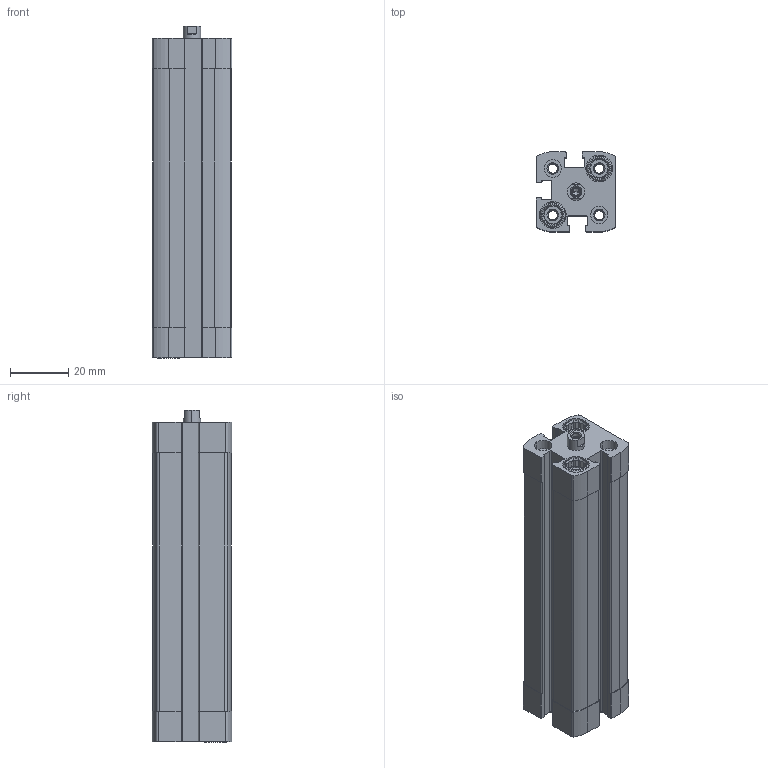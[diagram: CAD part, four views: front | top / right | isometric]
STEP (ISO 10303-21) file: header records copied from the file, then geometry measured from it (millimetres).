
FILE_DESCRIPTION (( 'STEP AP203' ), '1' );
FILE_NAME ('CCN12-75F.STEP', '2017-03-23T18:07:33', ( '' ), ( '' ), 'SwSTEP 2.0', 'SolidWorks 2016', '' );
FILE_SCHEMA (( 'CONFIG_CONTROL_DESIGN' ));
Length unit declared in the file: millimetre
Products named in the file (3): CCN12-75F; CCN12-75F---(Z); CCN12-75F_(KS)
Assembly tree (2 placements, depth 2):
  CCN12-75F
    CCN12-75F---(Z)
    CCN12-75F_(KS)
Bounding box: 27.5 x 27.5 x 114.2 mm (x, y, z)
Volume: 55901.2 mm3; surface area: 29254.7 mm2
Topology: 2 solids, 2 shells, 363 faces, 942 edges, 617 vertices
Faces by surface type: plane 187, cylinder 134, cone 42
Entity records: 11541 total; most frequent: CARTESIAN_POINT 2219, DIRECTION 1900, ORIENTED_EDGE 1880, EDGE_CURVE 940, AXIS2_PLACEMENT_3D 690, VERTEX_POINT 617, LINE 520, VECTOR 520
